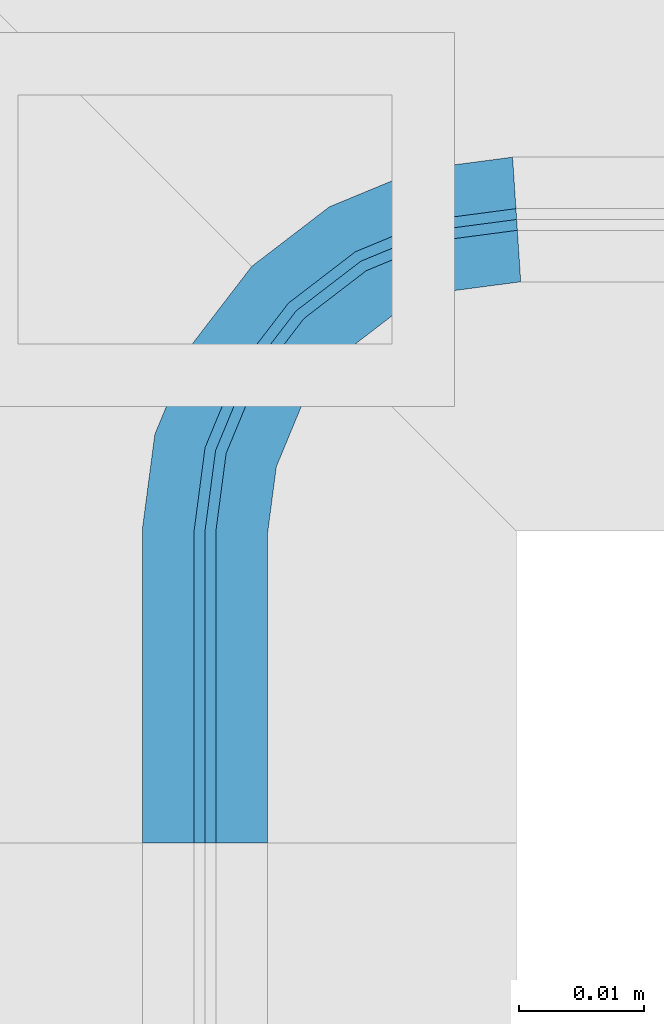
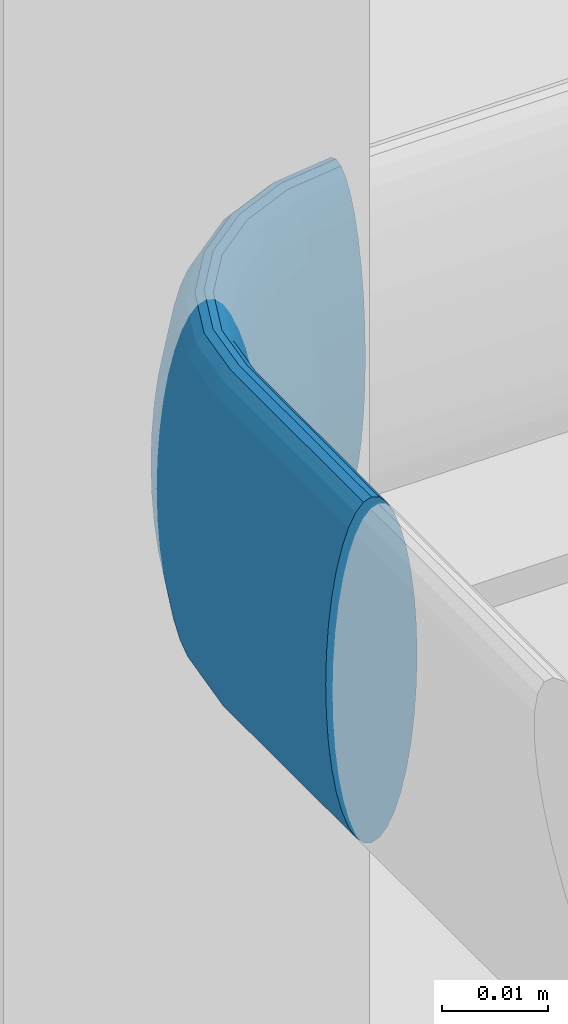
# One storey, part 83 of 418: 1 member, 1 element without a shape of its own.
"""IFC2X3 building model written with IfcOpenShell, lengths in millimetres."""

from ifc_helpers import new_model, entity, si_unit, converted_unit, derived_unit, money_unit, direction, frame, origin_with_axes, place, context, subcontext, project, spatial, faceted_brep, material, type_object, element, aggregate, save


model = new_model("IFC2X3")

# Units and contexts
model_context = context("Model", 3, precision=0.01, world=origin_with_axes(), true_north=direction((0.0, 1.0)))
body_context = subcontext(model_context, "Body", "Model", "MODEL_VIEW")
ifc_project = project(units=[si_unit("LENGTHUNIT", "METRE", prefix="MILLI"), si_unit("AREAUNIT", "SQUARE_METRE"), si_unit("VOLUMEUNIT", "CUBIC_METRE"), converted_unit("PLANEANGLEUNIT", "DEGREE", entity("IfcPlaneAngleMeasure", 0.0174532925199), si_unit("PLANEANGLEUNIT", "RADIAN"), dimensions=[0, 0, 0, 0, 0, 0, 0]), si_unit("SOLIDANGLEUNIT", "STERADIAN"), money_unit("EUR"), converted_unit("TIMEUNIT", "Year", entity("IfcTimeMeasure", 31556926.0), si_unit("TIMEUNIT", "SECOND"), dimensions=[0, 0, 1, 0, 0, 0, 0]), si_unit("MASSUNIT", "GRAM", prefix="KILO"), si_unit("THERMODYNAMICTEMPERATUREUNIT", "DEGREE_CELSIUS"), si_unit("LUMINOUSINTENSITYUNIT", "LUMEN"), si_unit("ENERGYUNIT", "JOULE", prefix="MEGA"), derived_unit("THERMALCONDUCTANCEUNIT", [(si_unit("POWERUNIT", "WATT"), 1), (si_unit("LENGTHUNIT", "METRE"), -1), (si_unit("THERMODYNAMICTEMPERATUREUNIT", "KELVIN"), -1)]), derived_unit("SPECIFICHEATCAPACITYUNIT", [(si_unit("ENERGYUNIT", "JOULE"), 1), (si_unit("MASSUNIT", "GRAM", prefix="KILO"), -1), (si_unit("THERMODYNAMICTEMPERATUREUNIT", "KELVIN"), -1)]), derived_unit("MASSDENSITYUNIT", [(si_unit("MASSUNIT", "GRAM", prefix="KILO"), 1), (si_unit("VOLUMEUNIT", "CUBIC_METRE"), -1)])], contexts=[model_context])

# Site, building, storey
site_placement = place(None, origin_with_axes())
site = spatial("IfcSite", under=ifc_project, at=site_placement, Name="Paldiski mnt 245/1, Tallinn, Harjumaa", CompositionType="COMPLEX")
building_placement = place(site_placement, origin_with_axes())
building = spatial("IfcBuilding", under=site, at=building_placement, Name="RKAS Hoone üldnimetus (kasutust iseloomustav) -> IFC Project Manager -> SOLIBRI", CompositionType="ELEMENT")
storey_placement = place(building_placement, origin_with_axes())
storey = spatial("IfcBuildingStorey", under=building, at=storey_placement, Name="Esimene korrus", CompositionType="ELEMENT", Elevation=0.0)

# Railing, member
railing_type = type_object("IfcRailingType", Name="Railing Type", PredefinedType="NOTDEFINED")
railing_placement = place(storey_placement, frame((-50030.6058534, -4525.08408706, 3600.0), z_axis=(0.0, 0.0, 1.0), x_axis=(-0.773149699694, -0.634223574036, 0.0)))
railing = element("IfcRailing", 1, at=railing_placement, inside=storey, type_object=railing_type, Name="PIIRE", PredefinedType="NOTDEFINED")
ifc_material = material(Name="ET-07_Teras - Roostevaba")
member_type = type_object("IfcMemberType", Name="IfcMember", PredefinedType="USERDEFINED")
member_placement = place(railing_placement, frame((0.0, 0.0, 0.0), z_axis=(0.0, 0.0, 1.0), x_axis=(-0.773149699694, 0.634223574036, 0.0)))
member = element("IfcMember", 2, at=member_placement, type_object=member_type, material=ifc_material, Name="RAIL CONNECTION - 001", ObjectType="Rail", context=body_context, shape_type="Brep", body=[
    faceted_brep([(-1169.19372146, -50.0, 396.527036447), (-1169.26968269, -50.0, 400.0), (-1169.26968269, -24.6722826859, 400.0), (-1169.19372146, -24.6772614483, 396.527036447), (-1169.19372146, -50.0, 403.472963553), (-1168.96814579, -50.0, 393.159597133), (-1168.59980971, -50.0, 390.0), (-1168.09990491, -50.0, 387.144247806), (-1167.48362074, -50.0, 384.679111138), (-1166.76968269, -50.0, 382.679491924), (-1165.97978341, -50.0, 381.206147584), (-1165.13792358, -50.0, 380.30384494), (-1164.26968269, -50.0, 380.0), (-1163.4014418, -50.0, 380.30384494), (-1162.55958197, -50.0, 381.206147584), (-1161.76968269, -50.0, 382.679491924), (-1161.05574464, -50.0, 384.679111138), (-1160.43946047, -50.0, 387.144247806), (-1159.93955567, -50.0, 390.0), (-1159.57121959, -50.0, 393.159597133), (-1159.34564393, -50.0, 396.527036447), (-1159.26968269, -50.0, 400.0), (-1159.34564393, -50.0, 403.472963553), (-1159.57121959, -50.0, 406.840402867), (-1159.93955567, -50.0, 410.0), (-1160.43946047, -50.0, 412.855752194), (-1161.05574464, -50.0, 415.320888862), (-1161.76968269, -50.0, 417.320508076), (-1162.55958197, -50.0, 418.793852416), (-1163.4014418, -50.0, 419.69615506), (-1164.26968269, -50.0, 420.0), (-1165.13792358, -50.0, 419.69615506), (-1165.97978341, -50.0, 418.793852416), (-1166.76968269, -50.0, 417.320508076), (-1167.48362074, -50.0, 415.320888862), (-1168.09990491, -50.0, 412.855752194), (-1168.59980971, -50.0, 410.0), (-1168.96814579, -50.0, 406.840402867), (-1169.19372146, -24.6772614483, 403.472963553), (-1168.21512611, -17.2440918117, 396.527036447), (-1168.28913216, -17.2242619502, 400.0), (-1168.96814579, -24.6920464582, 393.159597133), (-1168.59980971, -24.7161884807, 390.0), (-1168.09990491, -24.7489539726, 387.144247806), (-1167.48362074, -24.789347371, 384.679111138), (-1166.76968269, -24.8361413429, 382.679491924), (-1165.97978341, -24.8879140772, 381.206147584), (-1165.13792358, -24.9430924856, 380.30384494), (-1164.26968269, -25.0, 380.0), (-1163.4014418, -25.0569075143, 380.30384494), (-1162.55958197, -25.1120859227, 381.206147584), (-1161.76968269, -25.163858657, 382.679491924), (-1161.05574464, -25.2106526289, 384.679111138), (-1160.43946047, -25.2510460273, 387.144247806), (-1159.93955567, -25.2838115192, 390.0), (-1159.57121959, -25.3079535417, 393.159597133), (-1159.34564393, -25.3227385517, 396.527036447), (-1159.26968269, -25.327717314, 400.0), (-1159.34564393, -25.3227385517, 403.472963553), (-1159.57121959, -25.3079535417, 406.840402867), (-1159.93955567, -25.2838115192, 410.0), (-1160.43946047, -25.2510460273, 412.855752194), (-1161.05574464, -25.2106526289, 415.320888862), (-1161.76968269, -25.163858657, 417.320508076), (-1162.55958197, -25.1120859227, 418.793852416), (-1163.4014418, -25.0569075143, 419.69615506), (-1164.26968269, -25.0, 420.0), (-1165.13792358, -24.9430924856, 419.69615506), (-1165.97978341, -24.8879140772, 418.793852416), (-1166.76968269, -24.8361413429, 417.320508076), (-1167.48362074, -24.789347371, 415.320888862), (-1168.09990491, -24.7489539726, 412.855752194), (-1168.59980971, -24.7161884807, 410.0), (-1168.96814579, -24.6920464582, 406.840402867), (-1168.21512611, -17.2440918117, 403.472963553), (-1167.99535659, -17.3029788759, 393.159597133), (-1165.22145729, -10.0167359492, 396.527036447), (-1165.2878093, -9.97842759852, 400.0), (-1167.6365012, -17.3991338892, 390.0), (-1167.14946356, -17.5296352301, 387.144247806), (-1166.54904208, -17.6905176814, 384.679111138), (-1165.85348025, -17.8768929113, 382.679491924), (-1165.08391238, -18.0830980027, 381.206147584), (-1164.26372138, -18.3028675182, 380.30384494), (-1163.41782835, -18.5295238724, 380.0), (-1162.57193532, -18.7561802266, 380.30384494), (-1161.75174432, -18.9759497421, 381.206147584), (-1160.98217644, -19.1821548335, 382.679491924), (-1160.28661461, -19.3685300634, 384.679111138), (-1159.68619313, -19.5294125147, 387.144247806), (-1159.1991555, -19.6599138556, 390.0), (-1158.8403001, -19.7560688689, 393.159597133), (-1158.62053059, -19.8149559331, 396.527036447), (-1158.54652454, -19.8347857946, 400.0), (-1158.62053059, -19.8149559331, 403.472963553), (-1158.8403001, -19.7560688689, 406.840402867), (-1159.1991555, -19.6599138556, 410.0), (-1159.68619313, -19.5294125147, 412.855752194), (-1160.28661461, -19.3685300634, 415.320888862), (-1160.98217644, -19.1821548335, 417.320508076), (-1161.75174432, -18.9759497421, 418.793852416), (-1162.57193532, -18.7561802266, 419.69615506), (-1163.41782835, -18.5295238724, 420.0), (-1164.26372138, -18.3028675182, 419.69615506), (-1165.08391238, -18.0830980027, 418.793852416), (-1165.85348025, -17.8768929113, 417.320508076), (-1166.54904208, -17.6905176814, 415.320888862), (-1167.14946356, -17.5296352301, 412.855752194), (-1167.6365012, -17.3991338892, 410.0), (-1167.99535659, -17.3029788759, 406.840402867), (-1165.22145729, -10.0167359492, 403.472963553), (-1165.02441733, -10.1304970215, 393.159597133), (-1160.45921792, -3.81046477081, 396.527036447), (-1160.51339411, -3.75628858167, 400.0), (-1164.70267639, -10.3162542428, 390.0), (-1164.26601039, -10.5683634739, 387.144247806), (-1163.72768722, -10.8791645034, 384.679111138), (-1163.10406354, -11.2392137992, 382.679491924), (-1162.41408786, -11.6375714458, 381.206147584), (-1161.67872473, -12.0621335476, 380.30384494), (-1160.92031778, -12.5, 380.0), (-1160.16191084, -12.9378664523, 380.30384494), (-1159.42654771, -13.3624285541, 381.206147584), (-1158.73657203, -13.7607862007, 382.679491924), (-1158.11294835, -14.1208354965, 384.679111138), (-1157.57462518, -14.431636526, 387.144247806), (-1157.13795918, -14.6837457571, 390.0), (-1156.81621824, -14.8695029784, 393.159597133), (-1156.61917828, -14.9832640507, 396.527036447), (-1156.55282627, -15.0215724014, 400.0), (-1156.61917828, -14.9832640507, 403.472963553), (-1156.81621824, -14.8695029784, 406.840402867), (-1157.13795918, -14.6837457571, 410.0), (-1157.57462518, -14.431636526, 412.855752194), (-1158.11294835, -14.1208354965, 415.320888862), (-1158.73657203, -13.7607862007, 417.320508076), (-1159.42654771, -13.3624285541, 418.793852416), (-1160.16191084, -12.9378664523, 419.69615506), (-1160.92031778, -12.5, 420.0), (-1161.67872473, -12.0621335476, 419.69615506), (-1162.41408786, -11.6375714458, 418.793852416), (-1163.10406354, -11.2392137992, 417.320508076), (-1163.72768722, -10.8791645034, 415.320888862), (-1164.26601039, -10.5683634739, 412.855752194), (-1164.70267639, -10.3162542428, 410.0), (-1165.02441733, -10.1304970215, 406.840402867), (-1160.45921792, -3.81046477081, 403.472963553), (-1160.29833547, -3.97134722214, 393.159597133), (-1154.25294674, 0.951774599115, 396.527036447), (-1154.29125509, 1.01812660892, 400.0), (-1160.03563509, -4.23404760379, 390.0), (-1159.67909879, -4.59058389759, 387.144247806), (-1159.23955976, -5.03012292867, 384.679111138), (-1158.73037316, -5.53930952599, 382.679491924), (-1158.16701038, -6.10267231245, 381.206147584), (-1157.5665889, -6.70309379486, 380.30384494), (-1156.94735222, -7.32233047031, 380.0), (-1156.32811554, -7.94156714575, 380.30384494), (-1155.72769406, -8.54198862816, 381.206147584), (-1155.16433128, -9.10535141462, 382.679491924), (-1154.65514468, -9.61453801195, 384.679111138), (-1154.21560565, -10.054077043, 387.144247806), (-1153.85906935, -10.4106133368, 390.0), (-1153.59636897, -10.6733137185, 393.159597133), (-1153.43548652, -10.8341961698, 396.527036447), (-1153.38131033, -10.8883723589, 400.0), (-1153.43548652, -10.8341961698, 403.472963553), (-1153.59636897, -10.6733137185, 406.840402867), (-1153.85906935, -10.4106133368, 410.0), (-1154.21560565, -10.054077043, 412.855752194), (-1154.65514468, -9.61453801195, 415.320888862), (-1155.16433128, -9.10535141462, 417.320508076), (-1155.72769406, -8.54198862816, 418.793852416), (-1156.32811554, -7.94156714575, 419.69615506), (-1156.94735222, -7.32233047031, 420.0), (-1157.5665889, -6.70309379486, 419.69615506), (-1158.16701038, -6.10267231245, 418.793852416), (-1158.73037316, -5.53930952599, 417.320508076), (-1159.23955976, -5.03012292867, 415.320888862), (-1159.67909879, -4.59058389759, 412.855752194), (-1160.03563509, -4.23404760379, 410.0), (-1160.29833547, -3.97134722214, 406.840402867), (-1154.25294674, 0.951774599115, 403.472963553), (-1154.13918567, 0.754734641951, 393.159597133), (-1147.02559088, 3.94544341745, 396.527036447), (-1147.04542074, 4.01944946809, 400.0), (-1153.95342845, 0.432993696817, 390.0), (-1153.70131922, -0.00367230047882, 387.144247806), (-1153.39051819, -0.541995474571, 384.679111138), (-1153.03046889, -1.16561914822, 382.679491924), (-1152.63211124, -1.85559483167, 381.206147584), (-1152.20754914, -2.59095796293, 380.30384494), (-1151.76968269, -3.34936490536, 380.0), (-1151.33181624, -4.10777184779, 380.30384494), (-1150.90725414, -4.84313497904, 381.206147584), (-1150.50889649, -5.5331106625, 382.679491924), (-1150.14884719, -6.15673433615, 384.679111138), (-1149.83804616, -6.69505751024, 387.144247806), (-1149.58593693, -7.13172350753, 390.0), (-1149.40017971, -7.45346445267, 393.159597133), (-1149.28641864, -7.65050440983, 396.527036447), (-1149.24811029, -7.71685641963, 400.0), (-1149.28641864, -7.65050440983, 403.472963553), (-1149.40017971, -7.45346445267, 406.840402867), (-1149.58593693, -7.13172350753, 410.0), (-1149.83804616, -6.69505751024, 412.855752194), (-1150.14884719, -6.15673433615, 415.320888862), (-1150.50889649, -5.5331106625, 417.320508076), (-1150.90725414, -4.84313497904, 418.793852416), (-1151.33181624, -4.10777184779, 419.69615506), (-1151.76968269, -3.34936490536, 420.0), (-1152.20754914, -2.59095796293, 419.69615506), (-1152.63211124, -1.85559483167, 418.793852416), (-1153.03046889, -1.16561914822, 417.320508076), (-1153.39051819, -0.541995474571, 415.320888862), (-1153.70131922, -0.00367230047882, 412.855752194), (-1153.95342845, 0.432993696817, 410.0), (-1154.13918567, 0.754734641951, 406.840402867), (-1147.02559088, 3.94544341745, 403.472963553), (-1146.96670381, 3.72567390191, 393.159597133), (-1139.59242124, 4.92403876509, 396.527036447), (-1139.5974, 5.00000000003, 400.0), (-1146.8705488, 3.36681850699, 390.0), (-1146.74004746, 2.87978087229, 387.144247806), (-1146.57916501, 2.27935938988, 384.679111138), (-1146.39278978, 1.58379756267, 382.679491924), (-1146.18658469, 0.814229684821, 381.206147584), (-1145.96681517, -0.00596131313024, 380.30384494), (-1145.74015882, -0.851854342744, 380.0), (-1145.51350246, -1.69774737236, 380.30384494), (-1145.29373295, -2.51793837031, 381.206147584), (-1145.08752786, -3.28750624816, 382.679491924), (-1144.90115263, -3.98306807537, 384.679111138), (-1144.74027018, -4.58348955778, 387.144247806), (-1144.60976883, -5.07052719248, 390.0), (-1144.51361382, -5.42938258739, 393.159597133), (-1144.45472676, -5.64915210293, 396.527036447), (-1144.4348969, -5.72315815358, 400.0), (-1144.45472676, -5.64915210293, 403.472963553), (-1144.51361382, -5.42938258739, 406.840402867), (-1144.60976883, -5.07052719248, 410.0), (-1144.74027018, -4.58348955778, 412.855752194), (-1144.90115263, -3.98306807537, 415.320888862), (-1145.08752786, -3.28750624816, 417.320508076), (-1145.29373295, -2.51793837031, 418.793852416), (-1145.51350246, -1.69774737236, 419.69615506), (-1145.74015882, -0.851854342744, 420.0), (-1145.96681517, -0.00596131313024, 419.69615506), (-1146.18658469, 0.814229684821, 418.793852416), (-1146.39278978, 1.58379756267, 417.320508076), (-1146.57916501, 2.27935938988, 415.320888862), (-1146.74004746, 2.87978087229, 412.855752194), (-1146.8705488, 3.36681850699, 410.0), (-1146.96670381, 3.72567390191, 406.840402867), (-1139.59242124, 4.92403876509, 403.472963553), (-1139.57763623, 4.69846310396, 393.159597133), (-1138.98587117, -4.33012701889, 410.0), (-1138.96172915, -4.6984631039, 406.840402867), (-1138.94694414, -4.92403876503, 403.472963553), (-1138.94196538, -4.99999999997, 400.0), (-1138.94694414, -4.92403876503, 396.527036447), (-1138.96172915, -4.6984631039, 393.159597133), (-1138.98587117, -4.33012701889, 390.0), (-1139.01863666, -3.83022221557, 387.144247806), (-1139.05903006, -3.2139380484, 384.679111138), (-1139.10582403, -2.49999999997, 382.679491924), (-1139.15759677, -1.7101007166, 381.206147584), (-1139.21277518, -0.868240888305, 380.30384494), (-1139.26968269, 0.0, 380.0), (-1139.3265902, 0.868240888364, 380.30384494), (-1139.38176861, 1.71010071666, 381.206147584), (-1139.43354135, 2.50000000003, 382.679491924), (-1139.48033532, 3.21393804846, 384.679111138), (-1139.52072872, 3.83022221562, 387.144247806), (-1139.55349421, 4.33012701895, 390.0), (-1139.57763623, 4.69846310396, 406.840402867), (-1139.55349421, 4.33012701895, 410.0), (-1139.52072872, 3.83022221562, 412.855752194), (-1139.48033532, 3.21393804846, 415.320888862), (-1139.43354135, 2.50000000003, 417.320508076), (-1139.38176861, 1.71010071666, 418.793852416), (-1139.3265902, 0.868240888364, 419.69615506), (-1139.26968269, 0.0, 420.0), (-1139.21277518, -0.868240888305, 419.69615506), (-1139.15759677, -1.7101007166, 418.793852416), (-1139.10582403, -2.49999999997, 417.320508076), (-1139.05903006, -3.2139380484, 415.320888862), (-1139.01863666, -3.83022221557, 412.855752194)], [[[0, 1, 2, 3]], [[4, 1, 0, 5, 6, 7, 8, 9, 10, 11, 12, 13, 14, 15, 16, 17, 18, 19, 20, 21, 22, 23, 24, 25, 26, 27, 28, 29, 30, 31, 32, 33, 34, 35, 36, 37]], [[1, 4, 38, 2]], [[39, 3, 2, 40]], [[5, 0, 3, 41]], [[6, 5, 41, 42]], [[7, 6, 42, 43]], [[8, 7, 43, 44]], [[9, 8, 44, 45]], [[10, 9, 45, 46]], [[11, 10, 46, 47]], [[12, 11, 47, 48]], [[13, 12, 48, 49]], [[14, 13, 49, 50]], [[15, 14, 50, 51]], [[16, 15, 51, 52]], [[17, 16, 52, 53]], [[18, 17, 53, 54]], [[19, 18, 54, 55]], [[20, 19, 55, 56]], [[21, 20, 56, 57]], [[22, 21, 57, 58]], [[23, 22, 58, 59]], [[24, 23, 59, 60]], [[25, 24, 60, 61]], [[26, 25, 61, 62]], [[27, 26, 62, 63]], [[28, 27, 63, 64]], [[29, 28, 64, 65]], [[30, 29, 65, 66]], [[31, 30, 66, 67]], [[32, 31, 67, 68]], [[33, 32, 68, 69]], [[34, 33, 69, 70]], [[35, 34, 70, 71]], [[36, 35, 71, 72]], [[37, 36, 72, 73]], [[4, 37, 73, 38]], [[40, 2, 38, 74]], [[75, 41, 3, 39]], [[76, 39, 40, 77]], [[78, 42, 41, 75]], [[79, 43, 42, 78]], [[80, 44, 43, 79]], [[81, 45, 44, 80]], [[82, 46, 45, 81]], [[83, 47, 46, 82]], [[84, 48, 47, 83]], [[85, 49, 48, 84]], [[86, 50, 49, 85]], [[87, 51, 50, 86]], [[88, 52, 51, 87]], [[89, 53, 52, 88]], [[90, 54, 53, 89]], [[91, 55, 54, 90]], [[92, 56, 55, 91]], [[93, 57, 56, 92]], [[94, 58, 57, 93]], [[95, 59, 58, 94]], [[96, 60, 59, 95]], [[97, 61, 60, 96]], [[98, 62, 61, 97]], [[99, 63, 62, 98]], [[100, 64, 63, 99]], [[101, 65, 64, 100]], [[102, 66, 65, 101]], [[103, 67, 66, 102]], [[104, 68, 67, 103]], [[105, 69, 68, 104]], [[106, 70, 69, 105]], [[107, 71, 70, 106]], [[108, 72, 71, 107]], [[109, 73, 72, 108]], [[74, 38, 73, 109]], [[77, 40, 74, 110]], [[111, 75, 39, 76]], [[112, 76, 77, 113]], [[114, 78, 75, 111]], [[115, 79, 78, 114]], [[116, 80, 79, 115]], [[117, 81, 80, 116]], [[118, 82, 81, 117]], [[119, 83, 82, 118]], [[120, 84, 83, 119]], [[121, 85, 84, 120]], [[122, 86, 85, 121]], [[123, 87, 86, 122]], [[124, 88, 87, 123]], [[125, 89, 88, 124]], [[126, 90, 89, 125]], [[127, 91, 90, 126]], [[128, 92, 91, 127]], [[129, 93, 92, 128]], [[130, 94, 93, 129]], [[131, 95, 94, 130]], [[132, 96, 95, 131]], [[133, 97, 96, 132]], [[134, 98, 97, 133]], [[135, 99, 98, 134]], [[136, 100, 99, 135]], [[137, 101, 100, 136]], [[138, 102, 101, 137]], [[139, 103, 102, 138]], [[140, 104, 103, 139]], [[141, 105, 104, 140]], [[142, 106, 105, 141]], [[143, 107, 106, 142]], [[144, 108, 107, 143]], [[145, 109, 108, 144]], [[110, 74, 109, 145]], [[113, 77, 110, 146]], [[147, 111, 76, 112]], [[148, 112, 113, 149]], [[150, 114, 111, 147]], [[151, 115, 114, 150]], [[152, 116, 115, 151]], [[153, 117, 116, 152]], [[154, 118, 117, 153]], [[155, 119, 118, 154]], [[156, 120, 119, 155]], [[157, 121, 120, 156]], [[158, 122, 121, 157]], [[159, 123, 122, 158]], [[160, 124, 123, 159]], [[161, 125, 124, 160]], [[162, 126, 125, 161]], [[163, 127, 126, 162]], [[164, 128, 127, 163]], [[165, 129, 128, 164]], [[166, 130, 129, 165]], [[167, 131, 130, 166]], [[168, 132, 131, 167]], [[169, 133, 132, 168]], [[170, 134, 133, 169]], [[171, 135, 134, 170]], [[172, 136, 135, 171]], [[173, 137, 136, 172]], [[174, 138, 137, 173]], [[175, 139, 138, 174]], [[176, 140, 139, 175]], [[177, 141, 140, 176]], [[178, 142, 141, 177]], [[179, 143, 142, 178]], [[180, 144, 143, 179]], [[181, 145, 144, 180]], [[146, 110, 145, 181]], [[149, 113, 146, 182]], [[183, 147, 112, 148]], [[184, 148, 149, 185]], [[186, 150, 147, 183]], [[187, 151, 150, 186]], [[188, 152, 151, 187]], [[189, 153, 152, 188]], [[190, 154, 153, 189]], [[191, 155, 154, 190]], [[192, 156, 155, 191]], [[193, 157, 156, 192]], [[194, 158, 157, 193]], [[195, 159, 158, 194]], [[196, 160, 159, 195]], [[197, 161, 160, 196]], [[198, 162, 161, 197]], [[199, 163, 162, 198]], [[200, 164, 163, 199]], [[201, 165, 164, 200]], [[202, 166, 165, 201]], [[203, 167, 166, 202]], [[204, 168, 167, 203]], [[205, 169, 168, 204]], [[206, 170, 169, 205]], [[207, 171, 170, 206]], [[208, 172, 171, 207]], [[209, 173, 172, 208]], [[210, 174, 173, 209]], [[211, 175, 174, 210]], [[212, 176, 175, 211]], [[213, 177, 176, 212]], [[214, 178, 177, 213]], [[215, 179, 178, 214]], [[216, 180, 179, 215]], [[217, 181, 180, 216]], [[182, 146, 181, 217]], [[185, 149, 182, 218]], [[219, 183, 148, 184]], [[220, 184, 185, 221]], [[222, 186, 183, 219]], [[223, 187, 186, 222]], [[224, 188, 187, 223]], [[225, 189, 188, 224]], [[226, 190, 189, 225]], [[227, 191, 190, 226]], [[228, 192, 191, 227]], [[229, 193, 192, 228]], [[230, 194, 193, 229]], [[231, 195, 194, 230]], [[232, 196, 195, 231]], [[233, 197, 196, 232]], [[234, 198, 197, 233]], [[235, 199, 198, 234]], [[236, 200, 199, 235]], [[237, 201, 200, 236]], [[238, 202, 201, 237]], [[239, 203, 202, 238]], [[240, 204, 203, 239]], [[241, 205, 204, 240]], [[242, 206, 205, 241]], [[243, 207, 206, 242]], [[244, 208, 207, 243]], [[245, 209, 208, 244]], [[246, 210, 209, 245]], [[247, 211, 210, 246]], [[248, 212, 211, 247]], [[249, 213, 212, 248]], [[250, 214, 213, 249]], [[251, 215, 214, 250]], [[252, 216, 215, 251]], [[253, 217, 216, 252]], [[218, 182, 217, 253]], [[221, 185, 218, 254]], [[255, 219, 184, 220]], [[256, 257, 258, 259, 260, 261, 262, 263, 264, 265, 266, 267, 268, 269, 270, 271, 272, 273, 274, 255, 220, 221, 254, 275, 276, 277, 278, 279, 280, 281, 282, 283, 284, 285, 286, 287]], [[274, 222, 219, 255]], [[273, 223, 222, 274]], [[272, 224, 223, 273]], [[271, 225, 224, 272]], [[270, 226, 225, 271]], [[269, 227, 226, 270]], [[268, 228, 227, 269]], [[267, 229, 228, 268]], [[266, 230, 229, 267]], [[265, 231, 230, 266]], [[264, 232, 231, 265]], [[263, 233, 232, 264]], [[262, 234, 233, 263]], [[261, 235, 234, 262]], [[260, 236, 235, 261]], [[259, 237, 236, 260]], [[258, 238, 237, 259]], [[257, 239, 238, 258]], [[256, 240, 239, 257]], [[287, 241, 240, 256]], [[286, 242, 241, 287]], [[285, 243, 242, 286]], [[284, 244, 243, 285]], [[283, 245, 244, 284]], [[282, 246, 245, 283]], [[281, 247, 246, 282]], [[280, 248, 247, 281]], [[279, 249, 248, 280]], [[278, 250, 249, 279]], [[277, 251, 250, 278]], [[276, 252, 251, 277]], [[275, 253, 252, 276]], [[254, 218, 253, 275]]]),
])
aggregate(railing, [member])

save(model, "model.ifc")
